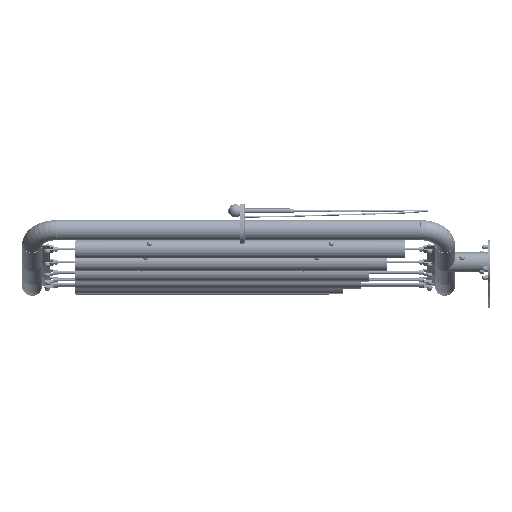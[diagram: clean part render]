
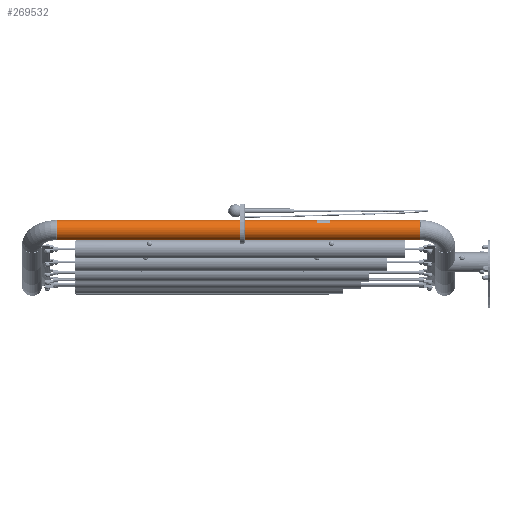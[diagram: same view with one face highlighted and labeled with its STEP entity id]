
A CAD part, left-side view. The second image highlights one B-rep face of the part: STEP entity #269532.
In plain terms, the highlighted cylindrical face has radius 38.05 mm (diameter 76.1 mm), a partial arc.
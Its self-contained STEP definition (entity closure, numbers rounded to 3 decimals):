
#19034 = AXIS2_PLACEMENT_3D ( 'NONE', #393641, #243907, #207579 ) ;
#49466 = CARTESIAN_POINT ( 'NONE',  ( -551.699, 1641., -555.817 ) ) ;
#56142 = VERTEX_POINT ( 'NONE', #325859 ) ;
#57877 = ORIENTED_EDGE ( 'NONE', *, *, #410742, .T. ) ;
#58786 = VECTOR ( 'NONE', #107870, 1000. ) ;
#64209 = CIRCLE ( 'NONE', #254426, 38.05 ) ;
#85264 = DIRECTION ( 'NONE',  ( 0., 0., 1. ) ) ;
#107870 = DIRECTION ( 'NONE',  ( 0., -1., 0. ) ) ;
#109687 = LINE ( 'NONE', #326988, #58786 ) ;
#123183 = DIRECTION ( 'NONE',  ( 0., 1., 0. ) ) ;
#130284 = VECTOR ( 'NONE', #168437, 1000. ) ;
#134008 = CYLINDRICAL_SURFACE ( 'NONE', #136747, 38.05 ) ;
#134161 = EDGE_CURVE ( 'NONE', #316595, #56142, #109687, .T. ) ;
#134494 = EDGE_LOOP ( 'NONE', ( #435154, #151198, #346391, #57877 ) ) ;
#136747 = AXIS2_PLACEMENT_3D ( 'NONE', #359316, #360877, #286750 ) ;
#151198 = ORIENTED_EDGE ( 'NONE', *, *, #303593, .F. ) ;
#168437 = DIRECTION ( 'NONE',  ( 0., -1., 0. ) ) ;
#207579 = DIRECTION ( 'NONE',  ( 0., 0., 1. ) ) ;
#226265 = LINE ( 'NONE', #348264, #130284 ) ;
#236896 = CIRCLE ( 'NONE', #19034, 38.05 ) ;
#239747 = CARTESIAN_POINT ( 'NONE',  ( -551.699, 266., -555.817 ) ) ;
#243907 = DIRECTION ( 'NONE',  ( 0., 1., 0. ) ) ;
#254426 = AXIS2_PLACEMENT_3D ( 'NONE', #448082, #123183, #85264 ) ;
#263931 = FACE_OUTER_BOUND ( 'NONE', #134494, .T. ) ;
#269532 = ADVANCED_FACE ( 'NONE', ( #263931 ), #134008, .T. ) ;
#286750 = DIRECTION ( 'NONE',  ( 0., 0., -1. ) ) ;
#303593 = EDGE_CURVE ( 'NONE', #316595, #408321, #64209, .T. ) ;
#316595 = VERTEX_POINT ( 'NONE', #372512 ) ;
#325859 = CARTESIAN_POINT ( 'NONE',  ( -551.699, 266., -631.917 ) ) ;
#326539 = EDGE_CURVE ( 'NONE', #408321, #330234, #226265, .T. ) ;
#326988 = CARTESIAN_POINT ( 'NONE',  ( -551.699, 1641., -631.917 ) ) ;
#330234 = VERTEX_POINT ( 'NONE', #239747 ) ;
#346391 = ORIENTED_EDGE ( 'NONE', *, *, #134161, .T. ) ;
#348264 = CARTESIAN_POINT ( 'NONE',  ( -551.699, 1641., -555.817 ) ) ;
#359316 = CARTESIAN_POINT ( 'NONE',  ( -551.699, 1641., -593.867 ) ) ;
#360877 = DIRECTION ( 'NONE',  ( 0., -1., 0. ) ) ;
#372512 = CARTESIAN_POINT ( 'NONE',  ( -551.699, 1641., -631.917 ) ) ;
#393641 = CARTESIAN_POINT ( 'NONE',  ( -551.699, 266., -593.867 ) ) ;
#408321 = VERTEX_POINT ( 'NONE', #49466 ) ;
#410742 = EDGE_CURVE ( 'NONE', #56142, #330234, #236896, .T. ) ;
#435154 = ORIENTED_EDGE ( 'NONE', *, *, #326539, .F. ) ;
#448082 = CARTESIAN_POINT ( 'NONE',  ( -551.699, 1641., -593.867 ) ) ;
